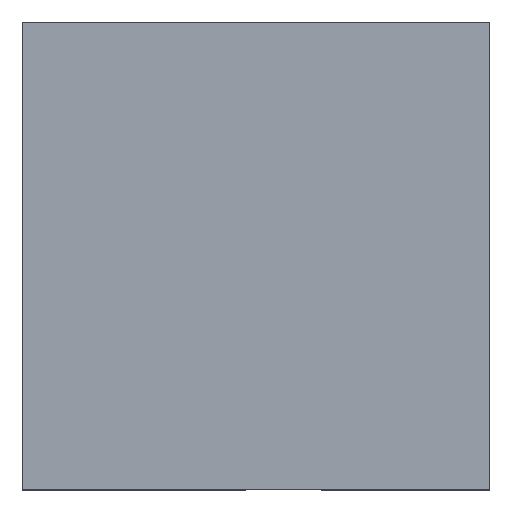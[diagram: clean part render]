
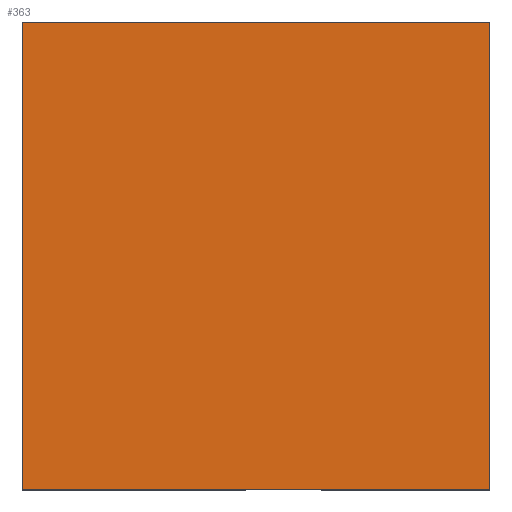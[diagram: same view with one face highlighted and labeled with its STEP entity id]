
A CAD part, top view. The second image highlights one B-rep face of the part: STEP entity #363.
In plain terms, the highlighted planar face has unit normal (0, 0, 1).
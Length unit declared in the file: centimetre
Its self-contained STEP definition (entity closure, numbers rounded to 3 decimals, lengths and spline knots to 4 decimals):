
#3 = EDGE_CURVE ( 'NONE', #305, #296, #138, .T. ) ;
#11 = CARTESIAN_POINT ( 'NONE',  ( 0., 0., 1000. ) ) ;
#13 = VECTOR ( 'NONE', #176, 100. ) ;
#64 = PLANE ( 'NONE',  #285 ) ;
#80 = LINE ( 'NONE', #474, #610 ) ;
#122 = FACE_OUTER_BOUND ( 'NONE', #412, .T. ) ;
#138 = LINE ( 'NONE', #295, #640 ) ;
#165 = CARTESIAN_POINT ( 'NONE',  ( 0., 1000., 1000. ) ) ;
#176 = DIRECTION ( 'NONE',  ( 1., 0., 0. ) ) ;
#193 = ORIENTED_EDGE ( 'NONE', *, *, #548, .T. ) ;
#198 = DIRECTION ( 'NONE',  ( 0., -1., 0. ) ) ;
#213 = VERTEX_POINT ( 'NONE', #495 ) ;
#223 = LINE ( 'NONE', #165, #481 ) ;
#265 = DIRECTION ( 'NONE',  ( 1., 0., 0. ) ) ;
#277 = CARTESIAN_POINT ( 'NONE',  ( 1000., 0., 1000. ) ) ;
#285 = AXIS2_PLACEMENT_3D ( 'NONE', #626, #464, #265 ) ;
#295 = CARTESIAN_POINT ( 'NONE',  ( 0., 1000., 1000. ) ) ;
#296 = VERTEX_POINT ( 'NONE', #444 ) ;
#305 = VERTEX_POINT ( 'NONE', #338 ) ;
#311 = ORIENTED_EDGE ( 'NONE', *, *, #380, .T. ) ;
#314 = DIRECTION ( 'NONE',  ( -1., 0., 0. ) ) ;
#338 = CARTESIAN_POINT ( 'NONE',  ( 0., 1000., 1000. ) ) ;
#363 = ADVANCED_FACE ( 'NONE', ( #122 ), #64, .T. ) ;
#380 = EDGE_CURVE ( 'NONE', #213, #305, #223, .T. ) ;
#381 = ORIENTED_EDGE ( 'NONE', *, *, #3, .T. ) ;
#384 = ORIENTED_EDGE ( 'NONE', *, *, #621, .T. ) ;
#412 = EDGE_LOOP ( 'NONE', ( #381, #384, #193, #311 ) ) ;
#415 = LINE ( 'NONE', #11, #13 ) ;
#444 = CARTESIAN_POINT ( 'NONE',  ( 0., 0., 1000. ) ) ;
#464 = DIRECTION ( 'NONE',  ( 0., 0., 1. ) ) ;
#474 = CARTESIAN_POINT ( 'NONE',  ( 1000., 1000., 1000. ) ) ;
#481 = VECTOR ( 'NONE', #314, 100. ) ;
#495 = CARTESIAN_POINT ( 'NONE',  ( 1000., 1000., 1000. ) ) ;
#505 = VERTEX_POINT ( 'NONE', #277 ) ;
#548 = EDGE_CURVE ( 'NONE', #505, #213, #80, .T. ) ;
#610 = VECTOR ( 'NONE', #635, 100. ) ;
#621 = EDGE_CURVE ( 'NONE', #296, #505, #415, .T. ) ;
#626 = CARTESIAN_POINT ( 'NONE',  ( 0., 0., 1000. ) ) ;
#635 = DIRECTION ( 'NONE',  ( 0., 1., 0. ) ) ;
#640 = VECTOR ( 'NONE', #198, 100. ) ;
